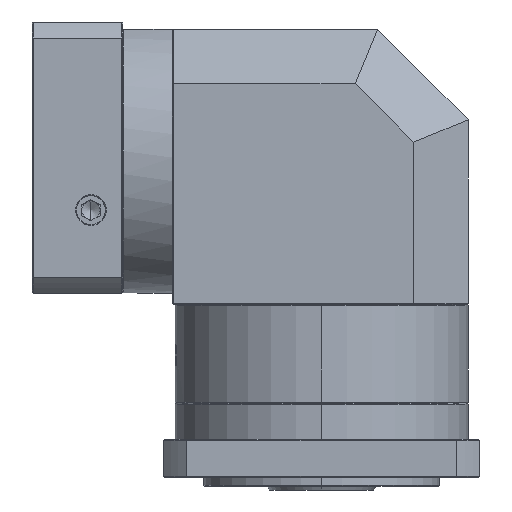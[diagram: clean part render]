
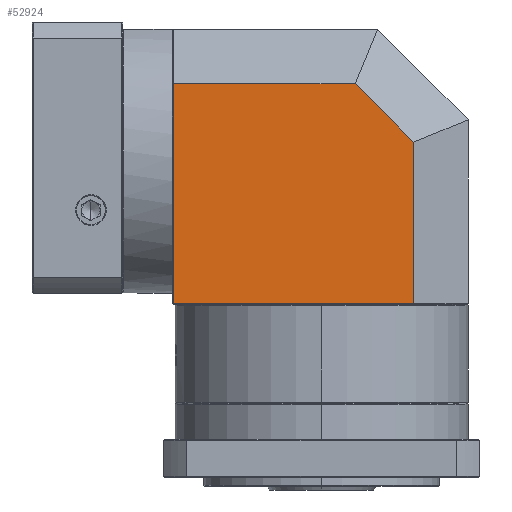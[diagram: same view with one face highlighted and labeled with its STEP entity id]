
A CAD part, left-side view. The second image highlights one B-rep face of the part: STEP entity #52924.
In plain terms, the highlighted planar face has unit normal (-1, 0, 0).
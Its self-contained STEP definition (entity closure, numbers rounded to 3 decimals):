
#2688 = ORIENTED_EDGE ( 'NONE', *, *, #86345, .T. ) ;
#3775 = DIRECTION ( 'NONE',  ( 0., 1., 0. ) ) ;
#9123 = VECTOR ( 'NONE', #32718, 1000. ) ;
#10288 = AXIS2_PLACEMENT_3D ( 'NONE', #128764, #49721, #78459 ) ;
#10591 = CARTESIAN_POINT ( 'NONE',  ( -200.739, 13.523, 46.693 ) ) ;
#20075 = PLANE ( 'NONE',  #10288 ) ;
#23842 = VERTEX_POINT ( 'NONE', #115597 ) ;
#26693 = VECTOR ( 'NONE', #111671, 1000. ) ;
#27470 = VERTEX_POINT ( 'NONE', #96320 ) ;
#32718 = DIRECTION ( 'NONE',  ( 0., 0.707, 0.707 ) ) ;
#33534 = VECTOR ( 'NONE', #104844, 1000. ) ;
#37220 = VERTEX_POINT ( 'NONE', #10591 ) ;
#38203 = LINE ( 'NONE', #114520, #33534 ) ;
#39570 = EDGE_CURVE ( 'NONE', #23842, #46065, #117282, .T. ) ;
#40697 = LINE ( 'NONE', #109965, #26693 ) ;
#45189 = VERTEX_POINT ( 'NONE', #52647 ) ;
#46065 = VERTEX_POINT ( 'NONE', #48784 ) ;
#46965 = VECTOR ( 'NONE', #55947, 1000. ) ;
#48784 = CARTESIAN_POINT ( 'NONE',  ( -200.739, -18.904, -75.007 ) ) ;
#49503 = FACE_OUTER_BOUND ( 'NONE', #57532, .T. ) ;
#49721 = DIRECTION ( 'NONE',  ( -1., 0., 0. ) ) ;
#51067 = EDGE_CURVE ( 'NONE', #46065, #27470, #38203, .T. ) ;
#52647 = CARTESIAN_POINT ( 'NONE',  ( -200.739, 114.096, 46.693 ) ) ;
#52924 = ADVANCED_FACE ( 'NONE', ( #49503 ), #20075, .T. ) ;
#55880 = LINE ( 'NONE', #81299, #99593 ) ;
#55947 = DIRECTION ( 'NONE',  ( 0., 0., -1. ) ) ;
#57532 = EDGE_LOOP ( 'NONE', ( #2688, #81590, #96024, #82104, #119850 ) ) ;
#73435 = EDGE_CURVE ( 'NONE', #23842, #37220, #80861, .T. ) ;
#78459 = DIRECTION ( 'NONE',  ( 0., 0., -1. ) ) ;
#80861 = LINE ( 'NONE', #102030, #9123 ) ;
#81299 = CARTESIAN_POINT ( 'NONE',  ( -200.739, 32.846, 46.693 ) ) ;
#81590 = ORIENTED_EDGE ( 'NONE', *, *, #51067, .F. ) ;
#82104 = ORIENTED_EDGE ( 'NONE', *, *, #73435, .T. ) ;
#86345 = EDGE_CURVE ( 'NONE', #45189, #27470, #40697, .T. ) ;
#96024 = ORIENTED_EDGE ( 'NONE', *, *, #39570, .F. ) ;
#96320 = CARTESIAN_POINT ( 'NONE',  ( -200.739, 114.096, -75.007 ) ) ;
#99593 = VECTOR ( 'NONE', #3775, 1000. ) ;
#102030 = CARTESIAN_POINT ( 'NONE',  ( -200.739, -18.904, 14.266 ) ) ;
#104844 = DIRECTION ( 'NONE',  ( 0., 1., 0. ) ) ;
#109965 = CARTESIAN_POINT ( 'NONE',  ( -200.739, 114.096, 0.593 ) ) ;
#111671 = DIRECTION ( 'NONE',  ( 0., 0., -1. ) ) ;
#114520 = CARTESIAN_POINT ( 'NONE',  ( -200.739, 32.846, -75.007 ) ) ;
#115597 = CARTESIAN_POINT ( 'NONE',  ( -200.739, -18.904, 14.266 ) ) ;
#115854 = CARTESIAN_POINT ( 'NONE',  ( -200.739, -18.904, 0.593 ) ) ;
#117282 = LINE ( 'NONE', #115854, #46965 ) ;
#119850 = ORIENTED_EDGE ( 'NONE', *, *, #121484, .T. ) ;
#121484 = EDGE_CURVE ( 'NONE', #37220, #45189, #55880, .T. ) ;
#128764 = CARTESIAN_POINT ( 'NONE',  ( -200.739, 32.846, 0.593 ) ) ;
